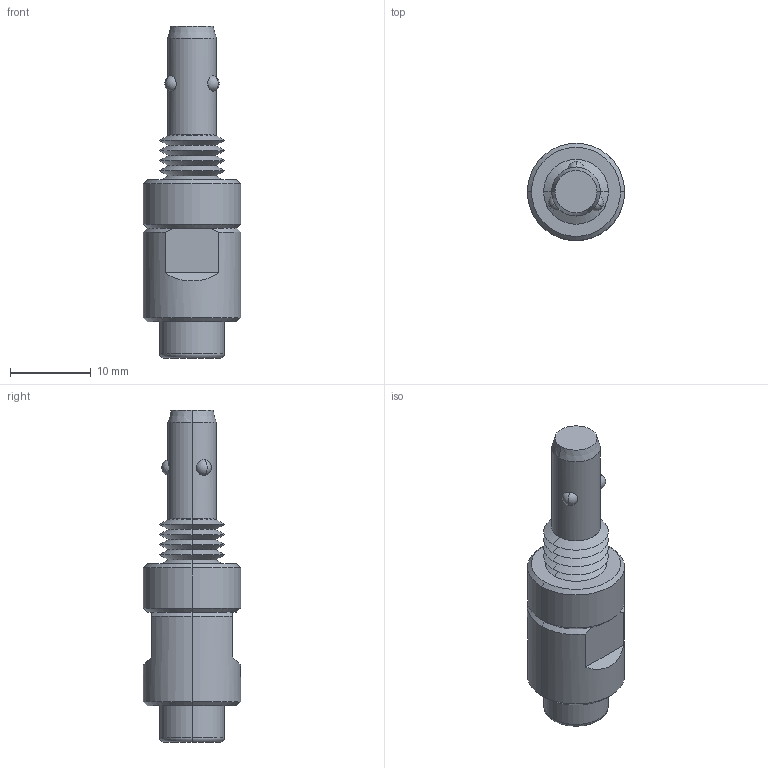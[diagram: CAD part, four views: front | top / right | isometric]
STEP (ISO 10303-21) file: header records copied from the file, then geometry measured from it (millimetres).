
FILE_DESCRIPTION (( 'STEP AP203' ), '1' );
FILE_NAME ('33914.W1006.step', '2019-10-28T13:43:21', ( '' ), ( '' ), 'SwSTEP 2.0', 'SolidWorks 2017', '' );
FILE_SCHEMA (( 'CONFIG_CONTROL_DESIGN' ));
Length unit declared in the file: millimetre
Products named in the file (1): 33914.W1006
Bounding box: 12 x 12 x 41 mm (x, y, z)
Volume: 2722 mm3; surface area: 1459.5 mm2
Topology: 1 solids, 1 shells, 57 faces, 114 edges, 64 vertices
Faces by surface type: cone 31, plane 10, cylinder 8, sphere 6, torus 2
Entity records: 1628 total; most frequent: CARTESIAN_POINT 356, DIRECTION 275, ORIENTED_EDGE 228, AXIS2_PLACEMENT_3D 115, EDGE_CURVE 114, VERTEX_POINT 64, EDGE_LOOP 62, FACE_OUTER_BOUND 57
